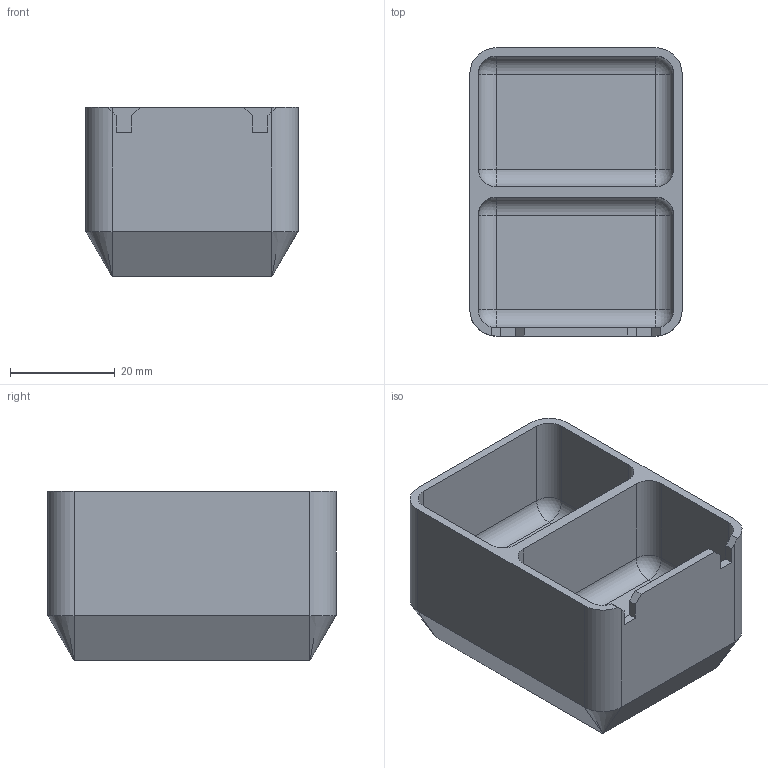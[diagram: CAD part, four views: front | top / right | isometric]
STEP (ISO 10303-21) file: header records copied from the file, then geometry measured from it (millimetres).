
FILE_DESCRIPTION(/* description */ (''),/* implementation_level */ '2;1');
FILE_NAME(/* name */ 'N:\3D_DATA1\治具\パーツケース内ボックス\2分割底上げ10.stp',/* time_stamp */ '2022-02-04T21:04:04+09:00',/* author */ ('KONAN'),/* organization */ (''),/* preprocessor_version */ 'ST-DEVELOPER v17.2',/* originating_system */ 'Autodesk Inventor 2019',/* authorisation */ '');
FILE_SCHEMA (('AUTOMOTIVE_DESIGN { 1 0 10303 214 3 1 1 }'));
Length unit declared in the file: millimetre
Products named in the file (1): 2分割底上げ10
Bounding box: 40.5 x 55 x 32.4 mm (x, y, z)
Volume: 30039.3 mm3; surface area: 14108.9 mm2
Topology: 1 solids, 1 shells, 63 faces, 148 edges, 84 vertices
Faces by surface type: plane 31, cylinder 20, sphere 8, cone 4
Entity records: 1775 total; most frequent: DIRECTION 316, CARTESIAN_POINT 292, ORIENTED_EDGE 288, EDGE_CURVE 144, AXIS2_PLACEMENT_3D 108, LINE 100, VECTOR 100, VERTEX_POINT 84
